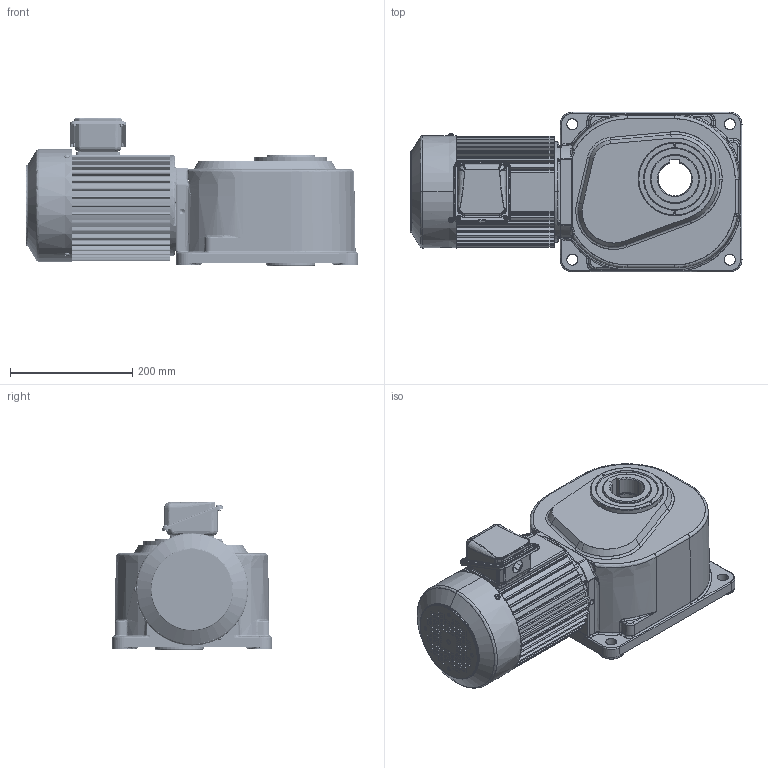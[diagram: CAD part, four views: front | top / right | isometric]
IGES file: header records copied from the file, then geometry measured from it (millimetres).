
Start section: SolidWorks IGES file using analytic representation for surfaces
Global section: file name: \\100.100.100.8\1_共有作業フォルダ\1-5_３Ｄデータ\solidworks\personal-folder\H.Nagayama\HF外形\HF\sldasm\TMHF-15-(5~240).IGS; native system: SolidWorks 2018; preprocessor: SolidWorks 2018; author: sigma-giken; date: 200219.162931; units: millimetre
Bounding box: 544 x 262 x 242 mm (x, y, z)
Surface area: 1042082.1 mm2 (no closed solid volume)
Topology: 0 solids, 0 shells, 2544 faces, 29809 edges, 29743 vertices
Faces by surface type: bspline 1307, revolution 1237
